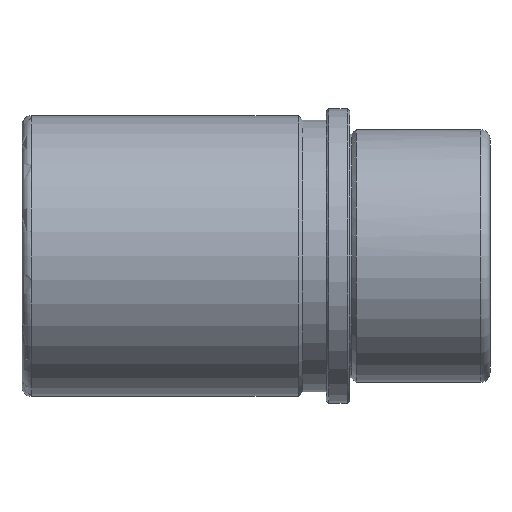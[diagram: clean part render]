
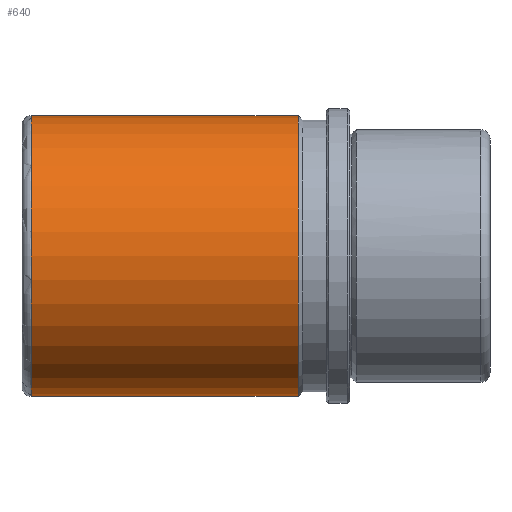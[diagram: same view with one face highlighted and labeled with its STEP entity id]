
A CAD part, front view. The second image highlights one B-rep face of the part: STEP entity #640.
In plain terms, the highlighted cylindrical face has radius 30 mm (diameter 60 mm), a partial arc.
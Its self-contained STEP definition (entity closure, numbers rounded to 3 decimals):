
#425=CARTESIAN_POINT('Line Origine',(30.,0.,30.)) ;
#429=CARTESIAN_POINT('Vertex',(-11.,0.,30.)) ;
#431=CARTESIAN_POINT('Vertex',(-68.,0.,30.)) ;
#445=CARTESIAN_POINT('Vertex',(-11.,0.,-30.)) ;
#448=CARTESIAN_POINT('Line Origine',(30.,0.,-30.)) ;
#452=CARTESIAN_POINT('Vertex',(-68.,0.,-30.)) ;
#603=CARTESIAN_POINT('Axis2P3D Location',(30.,0.,0.)) ;
#608=CARTESIAN_POINT('Axis2P3D Location',(-11.,0.,0.)) ;
#612=CARTESIAN_POINT('Vertex',(-11.,-30.,0.)) ;
#615=CARTESIAN_POINT('Axis2P3D Location',(-11.,0.,0.)) ;
#620=CARTESIAN_POINT('Axis2P3D Location',(-68.,0.,0.)) ;
#624=CARTESIAN_POINT('Vertex',(-68.,-30.,0.)) ;
#627=CARTESIAN_POINT('Axis2P3D Location',(-68.,0.,0.)) ;
#426=DIRECTION('Vector Direction',(-1.,0.,0.)) ;
#449=DIRECTION('Vector Direction',(-1.,0.,0.)) ;
#604=DIRECTION('Axis2P3D Direction',(-1.,-0.,-0.)) ;
#605=DIRECTION('Axis2P3D XDirection',(0.,0.,-1.)) ;
#609=DIRECTION('Axis2P3D Direction',(-1.,-0.,-0.)) ;
#616=DIRECTION('Axis2P3D Direction',(-1.,-0.,-0.)) ;
#621=DIRECTION('Axis2P3D Direction',(-1.,-0.,-0.)) ;
#628=DIRECTION('Axis2P3D Direction',(-1.,-0.,-0.)) ;
#606=AXIS2_PLACEMENT_3D('Cylinder Axis2P3D',#603,#604,#605) ;
#610=AXIS2_PLACEMENT_3D('Circle Axis2P3D',#608,#609,$) ;
#617=AXIS2_PLACEMENT_3D('Circle Axis2P3D',#615,#616,$) ;
#622=AXIS2_PLACEMENT_3D('Circle Axis2P3D',#620,#621,$) ;
#629=AXIS2_PLACEMENT_3D('Circle Axis2P3D',#627,#628,$) ;
#633=ORIENTED_EDGE('',*,*,#454,.T.) ;
#634=ORIENTED_EDGE('',*,*,#614,.F.) ;
#635=ORIENTED_EDGE('',*,*,#619,.F.) ;
#636=ORIENTED_EDGE('',*,*,#433,.T.) ;
#637=ORIENTED_EDGE('',*,*,#626,.T.) ;
#638=ORIENTED_EDGE('',*,*,#631,.T.) ;
#427=VECTOR('Line Direction',#426,1.) ;
#450=VECTOR('Line Direction',#449,1.) ;
#640=ADVANCED_FACE('CF 655 40 x 100',(#639),#607,.T.) ;
#611=CIRCLE('generated circle',#610,30.) ;
#618=CIRCLE('generated circle',#617,30.) ;
#623=CIRCLE('generated circle',#622,30.) ;
#630=CIRCLE('generated circle',#629,30.) ;
#607=CYLINDRICAL_SURFACE('generated cylinder',#606,30.) ;
#433=EDGE_CURVE('',#430,#432,#428,.T.) ;
#454=EDGE_CURVE('',#453,#446,#451,.F.) ;
#614=EDGE_CURVE('',#613,#446,#611,.F.) ;
#619=EDGE_CURVE('',#430,#613,#618,.F.) ;
#626=EDGE_CURVE('',#432,#625,#623,.F.) ;
#631=EDGE_CURVE('',#625,#453,#630,.F.) ;
#632=EDGE_LOOP('',(#633,#634,#635,#636,#637,#638)) ;
#639=FACE_OUTER_BOUND('',#632,.T.) ;
#428=LINE('Line',#425,#427) ;
#451=LINE('Line',#448,#450) ;
#430=VERTEX_POINT('',#429) ;
#432=VERTEX_POINT('',#431) ;
#446=VERTEX_POINT('',#445) ;
#453=VERTEX_POINT('',#452) ;
#613=VERTEX_POINT('',#612) ;
#625=VERTEX_POINT('',#624) ;
